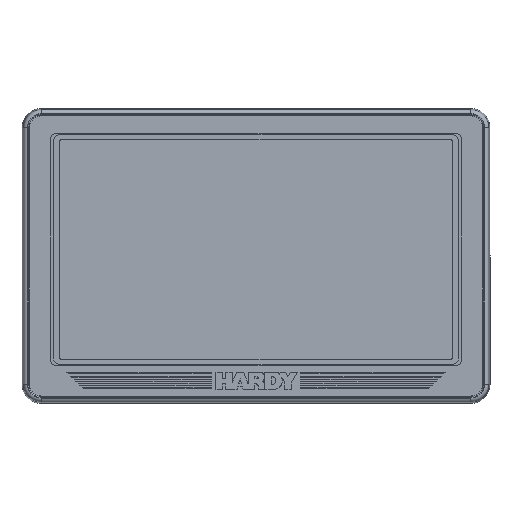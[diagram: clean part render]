
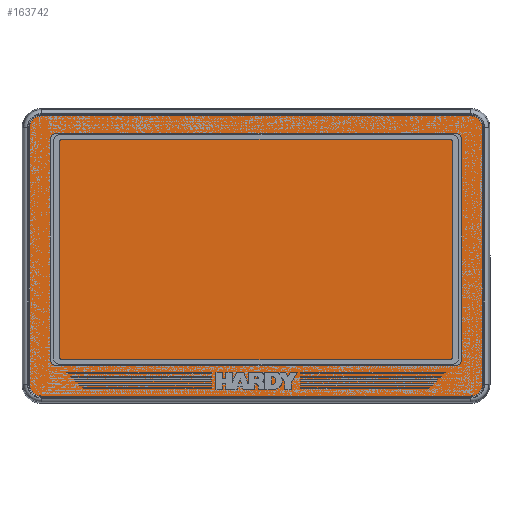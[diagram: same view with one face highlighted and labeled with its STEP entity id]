
A CAD part, top view. The second image highlights one B-rep face of the part: STEP entity #163742.
In plain terms, the highlighted planar face has unit normal (0, 0, 1).
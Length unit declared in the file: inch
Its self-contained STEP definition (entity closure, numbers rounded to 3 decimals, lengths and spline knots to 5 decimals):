
#2204 = DIRECTION ( 'NONE',  ( 1., 0., 0. ) ) ;
#7087 = PLANE ( 'NONE',  #211051 ) ;
#7278 = CIRCLE ( 'NONE', #248329, 0.18356 ) ;
#17306 = VECTOR ( 'NONE', #98498, 39.37008 ) ;
#17992 = CARTESIAN_POINT ( 'NONE',  ( -3.35144, -2.185, 0.04 ) ) ;
#18140 = ORIENTED_EDGE ( 'NONE', *, *, #235614, .T. ) ;
#28703 = VERTEX_POINT ( 'NONE', #150993 ) ;
#36570 = CARTESIAN_POINT ( 'NONE',  ( 3.35144, -2.185, 0.04 ) ) ;
#36926 = LINE ( 'NONE', #237250, #51050 ) ;
#43001 = DIRECTION ( 'NONE',  ( 1., 0., 0. ) ) ;
#51050 = VECTOR ( 'NONE', #121158, 39.37008 ) ;
#53771 = EDGE_CURVE ( 'NONE', #74378, #215140, #193236, .T. ) ;
#54556 = DIRECTION ( 'NONE',  ( 0., 0., 1. ) ) ;
#55040 = EDGE_LOOP ( 'NONE', ( #175971, #215680, #90072, #285294, #184763, #18140, #140666, #214111 ) ) ;
#58253 = EDGE_CURVE ( 'NONE', #70058, #74378, #7278, .T. ) ;
#59630 = CARTESIAN_POINT ( 'NONE',  ( 3.35144, 2.185, 0.04 ) ) ;
#63405 = DIRECTION ( 'NONE',  ( 0., 0., 1. ) ) ;
#70058 = VERTEX_POINT ( 'NONE', #238064 ) ;
#73681 = CARTESIAN_POINT ( 'NONE',  ( 3.35144, 2.00144, 0.04 ) ) ;
#74378 = VERTEX_POINT ( 'NONE', #133437 ) ;
#77925 = VERTEX_POINT ( 'NONE', #36570 ) ;
#79908 = EDGE_CURVE ( 'NONE', #215140, #28703, #269866, .T. ) ;
#83009 = DIRECTION ( 'NONE',  ( 1., 0., 0. ) ) ;
#84861 = EDGE_CURVE ( 'NONE', #259132, #254318, #183750, .T. ) ;
#90072 = ORIENTED_EDGE ( 'NONE', *, *, #79908, .T. ) ;
#95486 = FACE_OUTER_BOUND ( 'NONE', #55040, .T. ) ;
#96682 = CIRCLE ( 'NONE', #129215, 0.18356 ) ;
#98498 = DIRECTION ( 'NONE',  ( 1., 0., 0. ) ) ;
#100838 = AXIS2_PLACEMENT_3D ( 'NONE', #276943, #54556, #121281 ) ;
#107713 = CARTESIAN_POINT ( 'NONE',  ( -3.535, 2.00144, 0.04 ) ) ;
#112071 = DIRECTION ( 'NONE',  ( 0., -1., 0. ) ) ;
#116966 = CARTESIAN_POINT ( 'NONE',  ( -3.35144, 2.185, 0.04 ) ) ;
#117876 = EDGE_CURVE ( 'NONE', #28703, #259132, #129575, .T. ) ;
#118075 = CARTESIAN_POINT ( 'NONE',  ( -3.35144, 2.00144, 0.04 ) ) ;
#121158 = DIRECTION ( 'NONE',  ( 0., 1., 0. ) ) ;
#121281 = DIRECTION ( 'NONE',  ( 1., 0., 0. ) ) ;
#123815 = DIRECTION ( 'NONE',  ( 0., 0., 1. ) ) ;
#124263 = CARTESIAN_POINT ( 'NONE',  ( 3.535, -2.00144, 0.04 ) ) ;
#129215 = AXIS2_PLACEMENT_3D ( 'NONE', #153346, #63405, #43001 ) ;
#129575 = LINE ( 'NONE', #107713, #210673 ) ;
#133437 = CARTESIAN_POINT ( 'NONE',  ( 3.35144, 2.185, 0.04 ) ) ;
#138401 = DIRECTION ( 'NONE',  ( 0., 0., 1. ) ) ;
#140666 = ORIENTED_EDGE ( 'NONE', *, *, #287426, .T. ) ;
#144350 = AXIS2_PLACEMENT_3D ( 'NONE', #118075, #138401, #2204 ) ;
#145910 = VECTOR ( 'NONE', #214988, 39.37008 ) ;
#150993 = CARTESIAN_POINT ( 'NONE',  ( -3.535, 2.00144, 0.04 ) ) ;
#153346 = CARTESIAN_POINT ( 'NONE',  ( 3.35144, -2.00144, 0.04 ) ) ;
#159390 = EDGE_CURVE ( 'NONE', #189701, #70058, #36926, .T. ) ;
#163742 = ADVANCED_FACE ( 'NONE', ( #95486 ), #7087, .T. ) ;
#175971 = ORIENTED_EDGE ( 'NONE', *, *, #58253, .T. ) ;
#183750 = CIRCLE ( 'NONE', #100838, 0.18356 ) ;
#184763 = ORIENTED_EDGE ( 'NONE', *, *, #84861, .T. ) ;
#185720 = LINE ( 'NONE', #208948, #17306 ) ;
#189701 = VERTEX_POINT ( 'NONE', #124263 ) ;
#193236 = LINE ( 'NONE', #59630, #145910 ) ;
#206703 = CARTESIAN_POINT ( 'NONE',  ( -3.535, -2.00144, 0.04 ) ) ;
#208948 = CARTESIAN_POINT ( 'NONE',  ( -3.35144, -2.185, 0.04 ) ) ;
#210673 = VECTOR ( 'NONE', #112071, 39.37008 ) ;
#211051 = AXIS2_PLACEMENT_3D ( 'NONE', #73681, #233424, #227635 ) ;
#214111 = ORIENTED_EDGE ( 'NONE', *, *, #159390, .T. ) ;
#214988 = DIRECTION ( 'NONE',  ( -1., 0., 0. ) ) ;
#215140 = VERTEX_POINT ( 'NONE', #116966 ) ;
#215680 = ORIENTED_EDGE ( 'NONE', *, *, #53771, .T. ) ;
#227635 = DIRECTION ( 'NONE',  ( 1., 0., 0. ) ) ;
#233424 = DIRECTION ( 'NONE',  ( 0., 0., 1. ) ) ;
#235614 = EDGE_CURVE ( 'NONE', #254318, #77925, #185720, .T. ) ;
#237250 = CARTESIAN_POINT ( 'NONE',  ( 3.535, -2.00144, 0.04 ) ) ;
#238064 = CARTESIAN_POINT ( 'NONE',  ( 3.535, 2.00144, 0.04 ) ) ;
#248329 = AXIS2_PLACEMENT_3D ( 'NONE', #282238, #123815, #83009 ) ;
#254318 = VERTEX_POINT ( 'NONE', #17992 ) ;
#259132 = VERTEX_POINT ( 'NONE', #206703 ) ;
#269866 = CIRCLE ( 'NONE', #144350, 0.18356 ) ;
#276943 = CARTESIAN_POINT ( 'NONE',  ( -3.35144, -2.00144, 0.04 ) ) ;
#282238 = CARTESIAN_POINT ( 'NONE',  ( 3.35144, 2.00144, 0.04 ) ) ;
#285294 = ORIENTED_EDGE ( 'NONE', *, *, #117876, .T. ) ;
#287426 = EDGE_CURVE ( 'NONE', #77925, #189701, #96682, .T. ) ;
